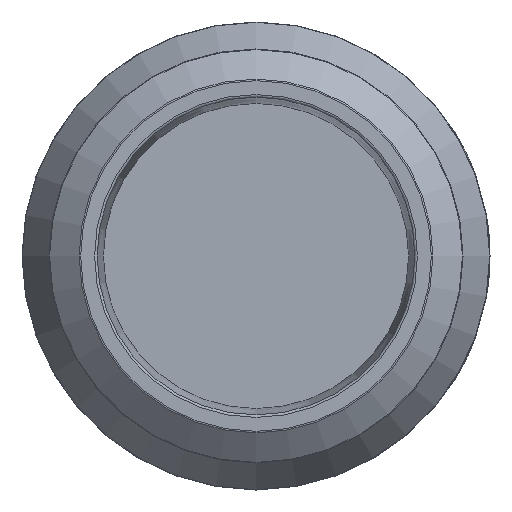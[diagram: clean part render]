
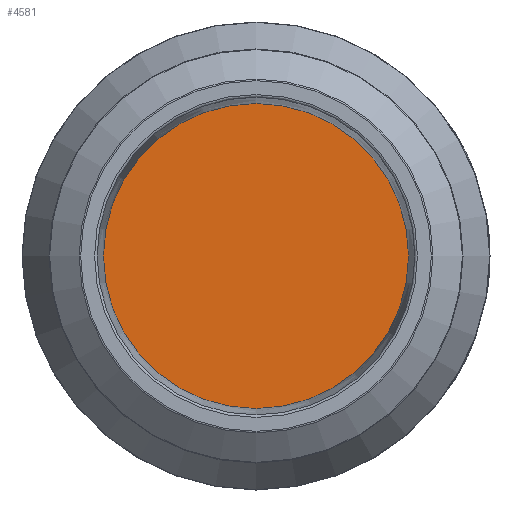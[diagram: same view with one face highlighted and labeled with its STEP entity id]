
A CAD part, left-side view. The second image highlights one B-rep face of the part: STEP entity #4581.
In plain terms, the highlighted planar face has unit normal (-1, 0, 0).
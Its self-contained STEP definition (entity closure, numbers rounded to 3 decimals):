
#753=PLANE('',#4838);
#1002=ORIENTED_EDGE('',*,*,#1805,.T.);
#1805=EDGE_CURVE('',#2280,#2280,#2604,.T.);
#2280=VERTEX_POINT('',#5779);
#2604=CIRCLE('',#4775,15.525);
#2740=EDGE_LOOP('',(#1002));
#2981=FACE_BOUND('',#2740,.T.);
#4581=ADVANCED_FACE('',(#2981),#753,.T.);
#4775=AXIS2_PLACEMENT_3D('',#5778,#5023,#5024);
#4838=AXIS2_PLACEMENT_3D('',#6292,#5202,#5203);
#5023=DIRECTION('',(-1.,0.,0.));
#5024=DIRECTION('',(0.,0.,1.));
#5202=DIRECTION('',(-1.,0.,0.));
#5203=DIRECTION('',(0.,0.,1.));
#5778=CARTESIAN_POINT('',(6.35,0.,0.));
#5779=CARTESIAN_POINT('',(6.35,0.,15.525));
#6292=CARTESIAN_POINT('',(6.35,0.,0.));
